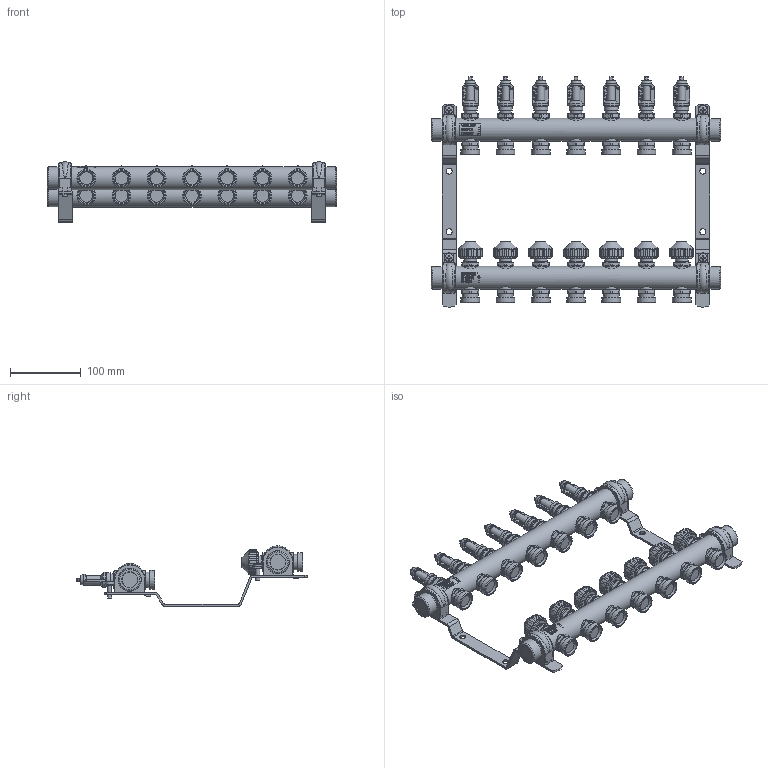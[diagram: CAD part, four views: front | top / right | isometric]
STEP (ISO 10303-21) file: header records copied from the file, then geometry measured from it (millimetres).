
FILE_DESCRIPTION((''),'2;1');
FILE_NAME('C:\Users\duckj\Desktop\10026189.stp','2016-10-28T11:52:48',('duckj'),(''),'Autodesk Inventor 2013','Autodesk Inventor 2013','');
FILE_SCHEMA(('CONFIG_CONTROL_DESIGN'));
Length unit declared in the file: millimetre
Products named in the file (4): 28102016_004; 26102016_005; 28102016_002; 28102016_003
Assembly tree (4 placements, depth 2):
  28102016_004
    26102016_005  x2
    28102016_002
    28102016_003
Bounding box: 410 x 326.44 x 85.7 mm (x, y, z)
Volume: 1144678.5 mm3; surface area: 228415 mm2
Topology: 11 solids, 11 shells, 3901 faces, 10245 edges, 6684 vertices
Faces by surface type: plane 2090, cylinder 721, bspline 562, cone 439, torus 85, sphere 4
Full cylindrical faces by diameter (mm): 3 x7, 6 x8, 8.5 x4, 12 x4, 15 x7, 15.5 x7, 16.5 x7, 18 x7, 19.5 x7, 21.8 x28, 22 x46, 26.441 x14, 30 x7, 31.8 x4, 33 x6, 33.7 x7
Entity records: 171941 total; most frequent: CARTESIAN_POINT 81432, ORIENTED_EDGE 19012, DIRECTION 15978, EDGE_CURVE 9506, VERTEX_POINT 6354, AXIS2_PLACEMENT_3D 5427, VECTOR 5124, LINE 5124
